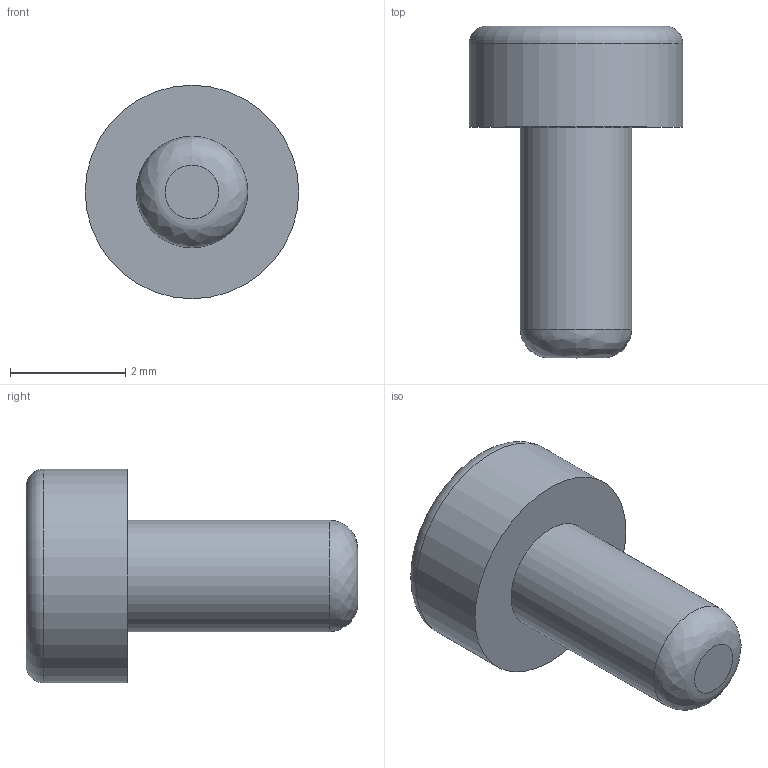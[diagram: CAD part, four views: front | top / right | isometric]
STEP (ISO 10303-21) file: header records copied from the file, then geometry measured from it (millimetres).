
FILE_DESCRIPTION(/* description */ (''),/* implementation_level */ '2;1');
FILE_NAME(/* name */ 'C:/Users/priba/Documents/Temp/Bolt2-4.step',/* time_stamp */ '2020-04-08T12:44:44+02:00',/* author */ (''),/* organization */ (''),/* preprocessor_version */ 'ST-DEVELOPER v18',/* originating_system */ 'Autodesk Translation Framework v8.12.0.6',/* authorisation */ '');
FILE_SCHEMA (('AUTOMOTIVE_DESIGN { 1 0 10303 214 3 1 1 }'));
Length unit declared in the file: millimetre
Products named in the file (1): Bolt2-4
Bounding box: 3.7 x 5.75 x 3.7 mm (x, y, z)
Volume: 27.3 mm3; surface area: 73.6 mm2
Topology: 1 solids, 1 shells, 20 faces, 52 edges, 36 vertices
Faces by surface type: plane 16, cylinder 2, bspline 1, torus 1
Full cylindrical faces by diameter (mm): 1.933 x1, 3.7 x1
Entity records: 677 total; most frequent: CARTESIAN_POINT 135, DIRECTION 106, ORIENTED_EDGE 104, EDGE_CURVE 52, LINE 38, VECTOR 38, VERTEX_POINT 36, AXIS2_PLACEMENT_3D 34
